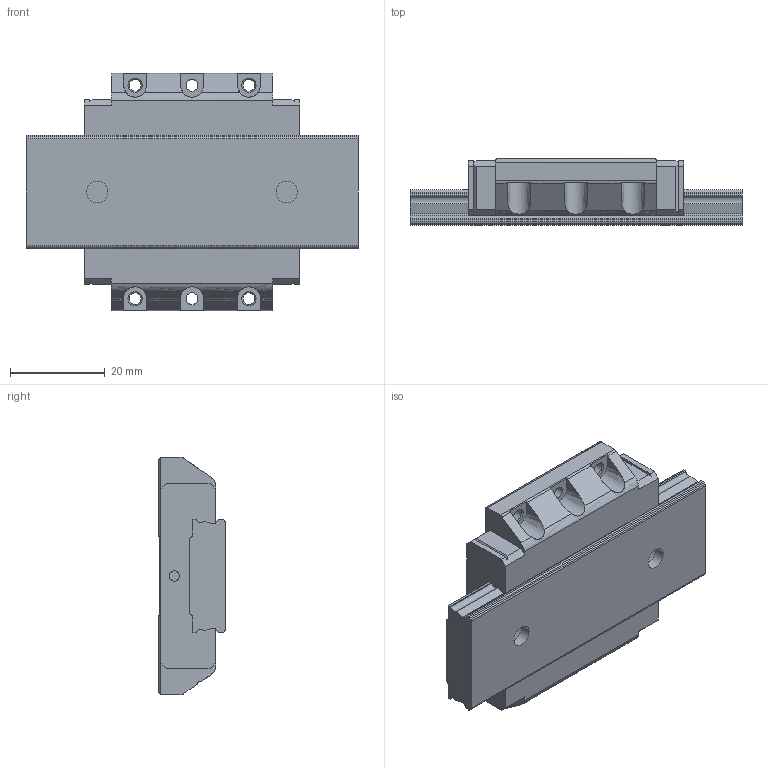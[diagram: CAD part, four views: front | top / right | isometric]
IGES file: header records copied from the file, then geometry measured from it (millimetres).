
Start section: Data from Parasolid IGES Translator 26.0.171, Copyright(c) 2006 Siemens PLM Software. All Rights Reserved.
Global section: file name: SHW14CA1SSM-70LM_G15_0_Without_grease_nipple_12-25_0_0_01.igs; native system: By Siemens PLM Incorporated; preprocessor: XPlus GENERIC/IGES 26.0.171; author: Noname; organization: Noname; date: 20240517.081745; units: millimetre
Bounding box: 70 x 14 x 50 mm (x, y, z)
Surface area: 12041.8 mm2 (no closed solid volume)
Topology: 0 solids, 0 shells, 193 faces, 1110 edges, 1082 vertices
Faces by surface type: extrusion 106, revolution 87
